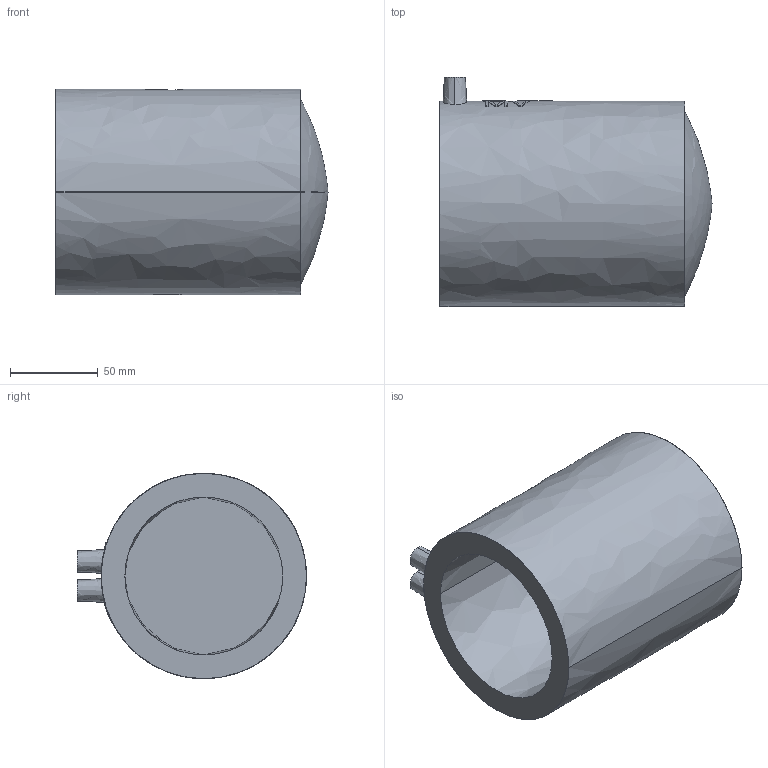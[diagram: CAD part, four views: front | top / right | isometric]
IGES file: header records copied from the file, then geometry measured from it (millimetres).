
Start section:  PTC IGES file: mv_d90.igs
Global section: file name: mv_d90.igs; native system: Pro/ENGINEER by Parametric Technology Corporation; preprocessor: 2006140; author: muellerc; organization: Unknown; date: 20060803.100118; units: millimetre
Bounding box: 155 x 130.5 x 117 mm (x, y, z)
Surface area: 94868.8 mm2 (no closed solid volume)
Topology: 0 solids, 0 shells, 53 faces, 325 edges, 330 vertices
Faces by surface type: bspline 53
